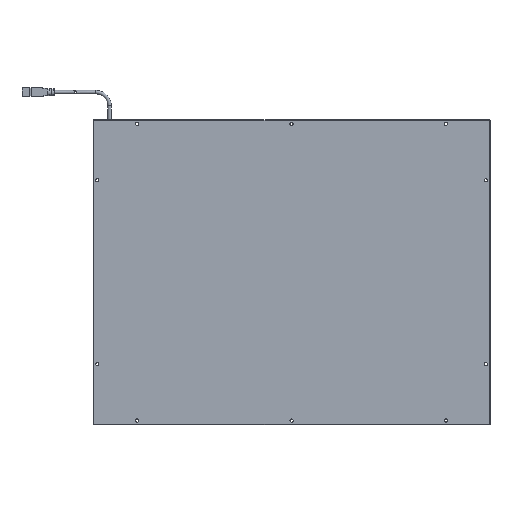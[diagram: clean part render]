
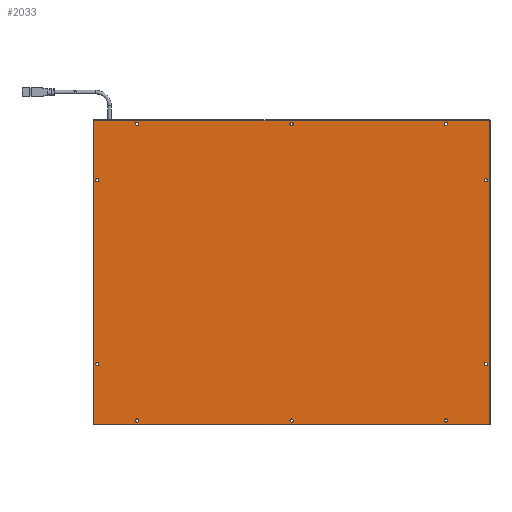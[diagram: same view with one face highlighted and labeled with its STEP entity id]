
A CAD part, front view. The second image highlights one B-rep face of the part: STEP entity #2033.
In plain terms, the highlighted planar face has unit normal (0, -1, 0).
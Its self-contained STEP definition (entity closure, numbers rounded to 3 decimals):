
#1=DIRECTION('',(0.,0.,-1.));
#2=VECTOR('',#1,331.);
#3=CARTESIAN_POINT('',(215.5,0.,165.5));
#4=LINE('',#3,#2);
#5=DIRECTION('',(-1.,0.,0.));
#6=VECTOR('',#5,431.);
#7=CARTESIAN_POINT('',(215.5,0.,-165.5));
#8=LINE('',#7,#6);
#9=DIRECTION('',(0.,0.,1.));
#10=VECTOR('',#9,331.);
#11=CARTESIAN_POINT('',(-215.5,0.,-165.5));
#12=LINE('',#11,#10);
#13=DIRECTION('',(1.,0.,0.));
#14=VECTOR('',#13,431.);
#15=CARTESIAN_POINT('',(-215.5,0.,165.5));
#16=LINE('',#15,#14);
#17=CARTESIAN_POINT('',(211.5,0.,-100.));
#18=DIRECTION('',(0.,-1.,0.));
#19=DIRECTION('',(-1.,0.,0.));
#20=AXIS2_PLACEMENT_3D('',#17,#18,#19);
#22=CARTESIAN_POINT('',(211.5,0.,-100.));
#23=DIRECTION('',(0.,-1.,0.));
#24=DIRECTION('',(1.,0.,0.));
#25=AXIS2_PLACEMENT_3D('',#22,#23,#24);
#27=CARTESIAN_POINT('',(211.5,0.,100.));
#28=DIRECTION('',(0.,-1.,0.));
#29=DIRECTION('',(-1.,0.,0.));
#30=AXIS2_PLACEMENT_3D('',#27,#28,#29);
#32=CARTESIAN_POINT('',(211.5,0.,100.));
#33=DIRECTION('',(0.,-1.,0.));
#34=DIRECTION('',(1.,0.,0.));
#35=AXIS2_PLACEMENT_3D('',#32,#33,#34);
#37=CARTESIAN_POINT('',(-211.5,0.,-100.));
#38=DIRECTION('',(0.,-1.,0.));
#39=DIRECTION('',(-1.,0.,0.));
#40=AXIS2_PLACEMENT_3D('',#37,#38,#39);
#42=CARTESIAN_POINT('',(-211.5,0.,-100.));
#43=DIRECTION('',(0.,-1.,0.));
#44=DIRECTION('',(1.,0.,0.));
#45=AXIS2_PLACEMENT_3D('',#42,#43,#44);
#47=CARTESIAN_POINT('',(-211.5,0.,100.));
#48=DIRECTION('',(0.,-1.,0.));
#49=DIRECTION('',(-1.,0.,0.));
#50=AXIS2_PLACEMENT_3D('',#47,#48,#49);
#52=CARTESIAN_POINT('',(-211.5,0.,100.));
#53=DIRECTION('',(0.,-1.,0.));
#54=DIRECTION('',(1.,0.,0.));
#55=AXIS2_PLACEMENT_3D('',#52,#53,#54);
#57=CARTESIAN_POINT('',(168.,0.,-161.5));
#58=DIRECTION('',(0.,-1.,0.));
#59=DIRECTION('',(-1.,0.,0.));
#60=AXIS2_PLACEMENT_3D('',#57,#58,#59);
#62=CARTESIAN_POINT('',(168.,0.,-161.5));
#63=DIRECTION('',(0.,-1.,0.));
#64=DIRECTION('',(1.,0.,0.));
#65=AXIS2_PLACEMENT_3D('',#62,#63,#64);
#67=CARTESIAN_POINT('',(0.,0.,-161.5));
#68=DIRECTION('',(0.,-1.,0.));
#69=DIRECTION('',(-1.,0.,0.));
#70=AXIS2_PLACEMENT_3D('',#67,#68,#69);
#72=CARTESIAN_POINT('',(0.,0.,-161.5));
#73=DIRECTION('',(0.,-1.,0.));
#74=DIRECTION('',(1.,0.,0.));
#75=AXIS2_PLACEMENT_3D('',#72,#73,#74);
#77=CARTESIAN_POINT('',(-168.,0.,-161.5));
#78=DIRECTION('',(0.,-1.,0.));
#79=DIRECTION('',(-1.,0.,0.));
#80=AXIS2_PLACEMENT_3D('',#77,#78,#79);
#82=CARTESIAN_POINT('',(-168.,0.,-161.5));
#83=DIRECTION('',(0.,-1.,0.));
#84=DIRECTION('',(1.,0.,0.));
#85=AXIS2_PLACEMENT_3D('',#82,#83,#84);
#87=CARTESIAN_POINT('',(168.,0.,161.5));
#88=DIRECTION('',(0.,-1.,0.));
#89=DIRECTION('',(1.,0.,0.));
#90=AXIS2_PLACEMENT_3D('',#87,#88,#89);
#92=CARTESIAN_POINT('',(168.,0.,161.5));
#93=DIRECTION('',(0.,-1.,0.));
#94=DIRECTION('',(-1.,0.,0.));
#95=AXIS2_PLACEMENT_3D('',#92,#93,#94);
#97=CARTESIAN_POINT('',(0.,0.,161.5));
#98=DIRECTION('',(0.,-1.,0.));
#99=DIRECTION('',(1.,0.,0.));
#100=AXIS2_PLACEMENT_3D('',#97,#98,#99);
#102=CARTESIAN_POINT('',(0.,0.,161.5));
#103=DIRECTION('',(0.,-1.,0.));
#104=DIRECTION('',(-1.,0.,0.));
#105=AXIS2_PLACEMENT_3D('',#102,#103,#104);
#107=CARTESIAN_POINT('',(-168.,0.,161.5));
#108=DIRECTION('',(0.,-1.,0.));
#109=DIRECTION('',(1.,0.,0.));
#110=AXIS2_PLACEMENT_3D('',#107,#108,#109);
#112=CARTESIAN_POINT('',(-168.,0.,161.5));
#113=DIRECTION('',(0.,-1.,0.));
#114=DIRECTION('',(-1.,0.,0.));
#115=AXIS2_PLACEMENT_3D('',#112,#113,#114);
#1518=CARTESIAN_POINT('',(215.5,0.,165.5));
#1519=CARTESIAN_POINT('',(215.5,0.,-165.5));
#1520=VERTEX_POINT('',#1518);
#1521=VERTEX_POINT('',#1519);
#1522=CARTESIAN_POINT('',(-215.5,0.,-165.5));
#1523=VERTEX_POINT('',#1522);
#1524=CARTESIAN_POINT('',(-215.5,0.,165.5));
#1525=VERTEX_POINT('',#1524);
#1526=CARTESIAN_POINT('',(209.75,0.,-100.));
#1527=CARTESIAN_POINT('',(213.25,0.,-100.));
#1528=VERTEX_POINT('',#1526);
#1529=VERTEX_POINT('',#1527);
#1530=CARTESIAN_POINT('',(209.75,0.,100.));
#1531=CARTESIAN_POINT('',(213.25,0.,100.));
#1532=VERTEX_POINT('',#1530);
#1533=VERTEX_POINT('',#1531);
#1534=CARTESIAN_POINT('',(-213.25,0.,-100.));
#1535=CARTESIAN_POINT('',(-209.75,0.,-100.));
#1536=VERTEX_POINT('',#1534);
#1537=VERTEX_POINT('',#1535);
#1538=CARTESIAN_POINT('',(-213.25,0.,100.));
#1539=CARTESIAN_POINT('',(-209.75,0.,100.));
#1540=VERTEX_POINT('',#1538);
#1541=VERTEX_POINT('',#1539);
#1542=CARTESIAN_POINT('',(166.25,0.,-161.5));
#1543=CARTESIAN_POINT('',(169.75,0.,-161.5));
#1544=VERTEX_POINT('',#1542);
#1545=VERTEX_POINT('',#1543);
#1546=CARTESIAN_POINT('',(-1.75,0.,-161.5));
#1547=CARTESIAN_POINT('',(1.75,0.,-161.5));
#1548=VERTEX_POINT('',#1546);
#1549=VERTEX_POINT('',#1547);
#1550=CARTESIAN_POINT('',(-169.75,0.,-161.5));
#1551=CARTESIAN_POINT('',(-166.25,0.,-161.5));
#1552=VERTEX_POINT('',#1550);
#1553=VERTEX_POINT('',#1551);
#1554=CARTESIAN_POINT('',(169.75,0.,161.5));
#1555=CARTESIAN_POINT('',(166.25,0.,161.5));
#1556=VERTEX_POINT('',#1554);
#1557=VERTEX_POINT('',#1555);
#1558=CARTESIAN_POINT('',(1.75,0.,161.5));
#1559=CARTESIAN_POINT('',(-1.75,0.,161.5));
#1560=VERTEX_POINT('',#1558);
#1561=VERTEX_POINT('',#1559);
#1562=CARTESIAN_POINT('',(-166.25,0.,161.5));
#1563=CARTESIAN_POINT('',(-169.75,0.,161.5));
#1564=VERTEX_POINT('',#1562);
#1565=VERTEX_POINT('',#1563);
#1958=CARTESIAN_POINT('',(0.,0.,0.));
#1959=DIRECTION('',(0.,1.,0.));
#1960=DIRECTION('',(1.,0.,0.));
#1961=AXIS2_PLACEMENT_3D('',#1958,#1959,#1960);
#1962=PLANE('',#1961);
#1964=ORIENTED_EDGE('',*,*,#1963,.T.);
#1966=ORIENTED_EDGE('',*,*,#1965,.T.);
#1968=ORIENTED_EDGE('',*,*,#1967,.T.);
#1970=ORIENTED_EDGE('',*,*,#1969,.T.);
#1971=EDGE_LOOP('',(#1964,#1966,#1968,#1970));
#1972=FACE_OUTER_BOUND('',#1971,.F.);
#1974=ORIENTED_EDGE('',*,*,#1973,.T.);
#1976=ORIENTED_EDGE('',*,*,#1975,.T.);
#1977=EDGE_LOOP('',(#1974,#1976));
#1978=FACE_BOUND('',#1977,.F.);
#1980=ORIENTED_EDGE('',*,*,#1979,.T.);
#1982=ORIENTED_EDGE('',*,*,#1981,.T.);
#1983=EDGE_LOOP('',(#1980,#1982));
#1984=FACE_BOUND('',#1983,.F.);
#1986=ORIENTED_EDGE('',*,*,#1985,.T.);
#1988=ORIENTED_EDGE('',*,*,#1987,.T.);
#1989=EDGE_LOOP('',(#1986,#1988));
#1990=FACE_BOUND('',#1989,.F.);
#1992=ORIENTED_EDGE('',*,*,#1991,.T.);
#1994=ORIENTED_EDGE('',*,*,#1993,.T.);
#1995=EDGE_LOOP('',(#1992,#1994));
#1996=FACE_BOUND('',#1995,.F.);
#1998=ORIENTED_EDGE('',*,*,#1997,.T.);
#2000=ORIENTED_EDGE('',*,*,#1999,.T.);
#2001=EDGE_LOOP('',(#1998,#2000));
#2002=FACE_BOUND('',#2001,.F.);
#2004=ORIENTED_EDGE('',*,*,#2003,.T.);
#2006=ORIENTED_EDGE('',*,*,#2005,.T.);
#2007=EDGE_LOOP('',(#2004,#2006));
#2008=FACE_BOUND('',#2007,.F.);
#2010=ORIENTED_EDGE('',*,*,#2009,.T.);
#2012=ORIENTED_EDGE('',*,*,#2011,.T.);
#2013=EDGE_LOOP('',(#2010,#2012));
#2014=FACE_BOUND('',#2013,.F.);
#2016=ORIENTED_EDGE('',*,*,#2015,.T.);
#2018=ORIENTED_EDGE('',*,*,#2017,.T.);
#2019=EDGE_LOOP('',(#2016,#2018));
#2020=FACE_BOUND('',#2019,.F.);
#2022=ORIENTED_EDGE('',*,*,#2021,.T.);
#2024=ORIENTED_EDGE('',*,*,#2023,.T.);
#2025=EDGE_LOOP('',(#2022,#2024));
#2026=FACE_BOUND('',#2025,.F.);
#2028=ORIENTED_EDGE('',*,*,#2027,.T.);
#2030=ORIENTED_EDGE('',*,*,#2029,.T.);
#2031=EDGE_LOOP('',(#2028,#2030));
#2032=FACE_BOUND('',#2031,.F.);
#21=CIRCLE('',#20,1.75);
#26=CIRCLE('',#25,1.75);
#31=CIRCLE('',#30,1.75);
#36=CIRCLE('',#35,1.75);
#41=CIRCLE('',#40,1.75);
#46=CIRCLE('',#45,1.75);
#51=CIRCLE('',#50,1.75);
#56=CIRCLE('',#55,1.75);
#61=CIRCLE('',#60,1.75);
#66=CIRCLE('',#65,1.75);
#71=CIRCLE('',#70,1.75);
#76=CIRCLE('',#75,1.75);
#81=CIRCLE('',#80,1.75);
#86=CIRCLE('',#85,1.75);
#91=CIRCLE('',#90,1.75);
#96=CIRCLE('',#95,1.75);
#101=CIRCLE('',#100,1.75);
#106=CIRCLE('',#105,1.75);
#111=CIRCLE('',#110,1.75);
#116=CIRCLE('',#115,1.75);
#1963=EDGE_CURVE('',#1520,#1521,#4,.T.);
#1965=EDGE_CURVE('',#1521,#1523,#8,.T.);
#1967=EDGE_CURVE('',#1523,#1525,#12,.T.);
#1969=EDGE_CURVE('',#1525,#1520,#16,.T.);
#1973=EDGE_CURVE('',#1528,#1529,#21,.T.);
#1975=EDGE_CURVE('',#1529,#1528,#26,.T.);
#1979=EDGE_CURVE('',#1532,#1533,#31,.T.);
#1981=EDGE_CURVE('',#1533,#1532,#36,.T.);
#1985=EDGE_CURVE('',#1536,#1537,#41,.T.);
#1987=EDGE_CURVE('',#1537,#1536,#46,.T.);
#1991=EDGE_CURVE('',#1540,#1541,#51,.T.);
#1993=EDGE_CURVE('',#1541,#1540,#56,.T.);
#1997=EDGE_CURVE('',#1544,#1545,#61,.T.);
#1999=EDGE_CURVE('',#1545,#1544,#66,.T.);
#2003=EDGE_CURVE('',#1548,#1549,#71,.T.);
#2005=EDGE_CURVE('',#1549,#1548,#76,.T.);
#2009=EDGE_CURVE('',#1552,#1553,#81,.T.);
#2011=EDGE_CURVE('',#1553,#1552,#86,.T.);
#2015=EDGE_CURVE('',#1556,#1557,#91,.T.);
#2017=EDGE_CURVE('',#1557,#1556,#96,.T.);
#2021=EDGE_CURVE('',#1560,#1561,#101,.T.);
#2023=EDGE_CURVE('',#1561,#1560,#106,.T.);
#2027=EDGE_CURVE('',#1564,#1565,#111,.T.);
#2029=EDGE_CURVE('',#1565,#1564,#116,.T.);
#2033=ADVANCED_FACE('',(#1972,#1978,#1984,#1990,#1996,#2002,#2008,#2014,#2020,
#2026,#2032),#1962,.F.);
